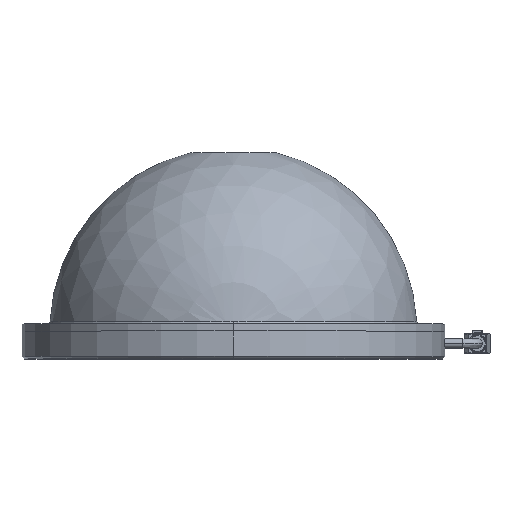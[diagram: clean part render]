
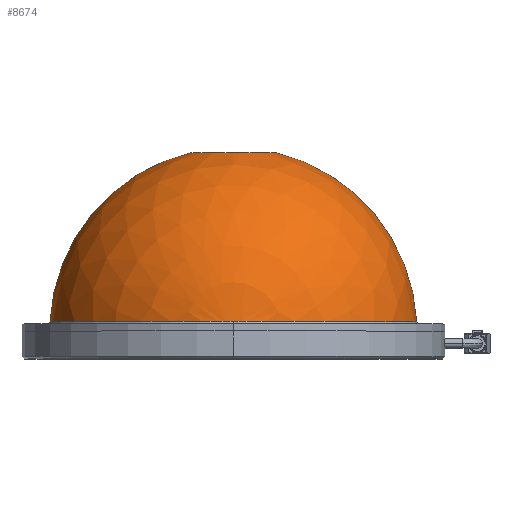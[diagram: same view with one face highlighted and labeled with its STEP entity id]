
A CAD part, top view. The second image highlights one B-rep face of the part: STEP entity #8674.
In plain terms, the highlighted spherical face has radius 76 mm.
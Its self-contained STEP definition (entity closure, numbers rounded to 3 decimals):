
#205 = ORIENTED_EDGE ( 'NONE', *, *, #4137, .F. ) ;
#257 = ORIENTED_EDGE ( 'NONE', *, *, #9214, .F. ) ;
#345 = CARTESIAN_POINT ( 'NONE',  ( 0., 85.158, 17.5 ) ) ;
#566 = DIRECTION ( 'NONE',  ( -1., 0., 0. ) ) ;
#612 = DIRECTION ( 'NONE',  ( 1., 0., 0. ) ) ;
#632 = DIRECTION ( 'NONE',  ( 0., 1., 0. ) ) ;
#661 = FACE_OUTER_BOUND ( 'NONE', #4961, .T. ) ;
#901 = CARTESIAN_POINT ( 'NONE',  ( 0., 85.158, 0. ) ) ;
#1021 = DIRECTION ( 'NONE',  ( 0., 1., 0. ) ) ;
#1156 = CIRCLE ( 'NONE', #3549, 76. ) ;
#1428 = DIRECTION ( 'NONE',  ( 0., 0., 1. ) ) ;
#1479 = DIRECTION ( 'NONE',  ( 1., 0., 0. ) ) ;
#1737 = CARTESIAN_POINT ( 'NONE',  ( 0., 85.158, 0. ) ) ;
#1961 = CARTESIAN_POINT ( 'NONE',  ( 75.897, 15.148, 0. ) ) ;
#2055 = DIRECTION ( 'NONE',  ( 0., 0., 1. ) ) ;
#2395 = EDGE_CURVE ( 'NONE', #9285, #7469, #3753, .T. ) ;
#2708 = DIRECTION ( 'NONE',  ( 0., 0., 1. ) ) ;
#2743 = CARTESIAN_POINT ( 'NONE',  ( 0., 15.148, 75.897 ) ) ;
#2807 = CARTESIAN_POINT ( 'NONE',  ( 0., 15.148, 0. ) ) ;
#2920 = DIRECTION ( 'NONE',  ( 0., 1., 0. ) ) ;
#2997 = AXIS2_PLACEMENT_3D ( 'NONE', #1737, #1021, #2708 ) ;
#3140 = DIRECTION ( 'NONE',  ( 0., 1., 0. ) ) ;
#3194 = VERTEX_POINT ( 'NONE', #345 ) ;
#3206 = CARTESIAN_POINT ( 'NONE',  ( 17.5, 85.158, 0. ) ) ;
#3321 = SPHERICAL_SURFACE ( 'NONE', #3978, 76. ) ;
#3422 = CARTESIAN_POINT ( 'NONE',  ( 0., 15.148, 0. ) ) ;
#3428 = EDGE_CURVE ( 'NONE', #7469, #5155, #1156, .T. ) ;
#3549 = AXIS2_PLACEMENT_3D ( 'NONE', #7421, #5175, #612 ) ;
#3753 = CIRCLE ( 'NONE', #3804, 75.897 ) ;
#3803 = ORIENTED_EDGE ( 'NONE', *, *, #3428, .T. ) ;
#3804 = AXIS2_PLACEMENT_3D ( 'NONE', #2807, #632, #2055 ) ;
#3912 = AXIS2_PLACEMENT_3D ( 'NONE', #3422, #2920, #1428 ) ;
#3978 = AXIS2_PLACEMENT_3D ( 'NONE', #8890, #5896, #1479 ) ;
#4137 = EDGE_CURVE ( 'NONE', #9071, #4945, #6221, .T. ) ;
#4203 = CARTESIAN_POINT ( 'NONE',  ( -75.897, 15.148, 0. ) ) ;
#4250 = CIRCLE ( 'NONE', #5033, 17.5 ) ;
#4945 = VERTEX_POINT ( 'NONE', #6685 ) ;
#4961 = EDGE_LOOP ( 'NONE', ( #205, #5350, #5568, #3803, #257, #5657 ) ) ;
#5033 = AXIS2_PLACEMENT_3D ( 'NONE', #901, #3140, #9165 ) ;
#5155 = VERTEX_POINT ( 'NONE', #3206 ) ;
#5175 = DIRECTION ( 'NONE',  ( 0., 0., 1. ) ) ;
#5317 = CIRCLE ( 'NONE', #2997, 17.5 ) ;
#5350 = ORIENTED_EDGE ( 'NONE', *, *, #8096, .T. ) ;
#5546 = CIRCLE ( 'NONE', #3912, 75.897 ) ;
#5568 = ORIENTED_EDGE ( 'NONE', *, *, #2395, .T. ) ;
#5657 = ORIENTED_EDGE ( 'NONE', *, *, #6207, .F. ) ;
#5896 = DIRECTION ( 'NONE',  ( 0., 0., -1. ) ) ;
#6207 = EDGE_CURVE ( 'NONE', #4945, #3194, #4250, .T. ) ;
#6221 = CIRCLE ( 'NONE', #8354, 76. ) ;
#6685 = CARTESIAN_POINT ( 'NONE',  ( -17.5, 85.158, 0. ) ) ;
#7421 = CARTESIAN_POINT ( 'NONE',  ( 0., 11.2, 0. ) ) ;
#7469 = VERTEX_POINT ( 'NONE', #1961 ) ;
#8096 = EDGE_CURVE ( 'NONE', #9071, #9285, #5546, .T. ) ;
#8354 = AXIS2_PLACEMENT_3D ( 'NONE', #9481, #9443, #566 ) ;
#8674 = ADVANCED_FACE ( 'NONE', ( #661 ), #3321, .T. ) ;
#8890 = CARTESIAN_POINT ( 'NONE',  ( 0., 11.2, 0. ) ) ;
#9071 = VERTEX_POINT ( 'NONE', #4203 ) ;
#9165 = DIRECTION ( 'NONE',  ( 0., 0., 1. ) ) ;
#9214 = EDGE_CURVE ( 'NONE', #3194, #5155, #5317, .T. ) ;
#9285 = VERTEX_POINT ( 'NONE', #2743 ) ;
#9443 = DIRECTION ( 'NONE',  ( 0., 0., -1. ) ) ;
#9481 = CARTESIAN_POINT ( 'NONE',  ( 0., 11.2, 0. ) ) ;
